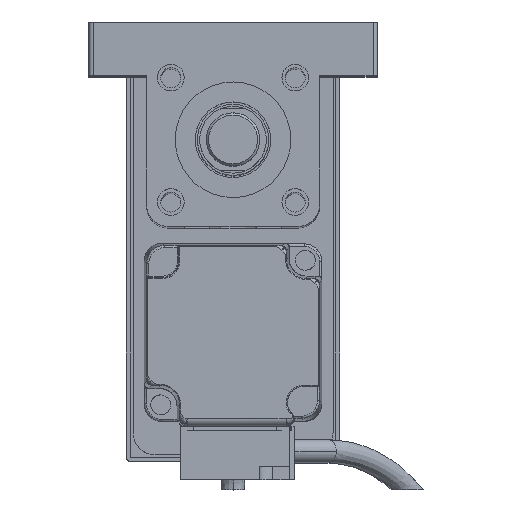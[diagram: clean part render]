
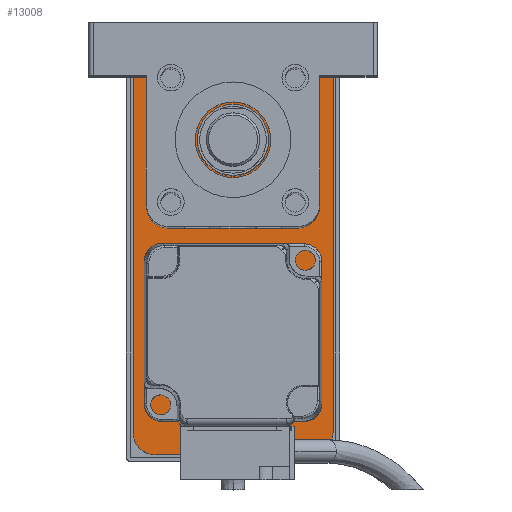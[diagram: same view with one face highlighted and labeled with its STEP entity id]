
A CAD part, top view. The second image highlights one B-rep face of the part: STEP entity #13008.
In plain terms, the highlighted planar face has unit normal (0, 0, 1).
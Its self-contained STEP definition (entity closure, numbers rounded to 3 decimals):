
#95 = DIRECTION ( 'NONE',  ( 0., 0., 1. ) ) ;
#449 = EDGE_CURVE ( 'NONE', #1602, #7636, #5620, .T. ) ;
#1353 = EDGE_CURVE ( 'NONE', #10924, #7166, #13956, .T. ) ;
#1576 = DIRECTION ( 'NONE',  ( 1., 0., 0. ) ) ;
#1602 = VERTEX_POINT ( 'NONE', #21933 ) ;
#2132 = CARTESIAN_POINT ( 'NONE',  ( 17.5, -45., 10. ) ) ;
#2158 = DIRECTION ( 'NONE',  ( 1., 0., 0. ) ) ;
#3330 = EDGE_CURVE ( 'NONE', #7636, #10924, #13272, .T. ) ;
#4036 = DIRECTION ( 'NONE',  ( 0., 1., 0. ) ) ;
#4304 = DIRECTION ( 'NONE',  ( 1., 0., 0. ) ) ;
#4361 = EDGE_CURVE ( 'NONE', #7166, #17107, #20621, .T. ) ;
#4362 = ORIENTED_EDGE ( 'NONE', *, *, #4361, .T. ) ;
#4627 = ORIENTED_EDGE ( 'NONE', *, *, #20187, .T. ) ;
#5100 = DIRECTION ( 'NONE',  ( 1., 0., 0. ) ) ;
#5357 = CARTESIAN_POINT ( 'NONE',  ( 17.5, -40., 10. ) ) ;
#5437 = EDGE_CURVE ( 'NONE', #24759, #1602, #6675, .T. ) ;
#5620 = LINE ( 'NONE', #9775, #10264 ) ;
#5799 = VECTOR ( 'NONE', #4304, 1000. ) ;
#6083 = CARTESIAN_POINT ( 'NONE',  ( 17.5, 45., 10. ) ) ;
#6398 = AXIS2_PLACEMENT_3D ( 'NONE', #25638, #95, #2158 ) ;
#6675 = CIRCLE ( 'NONE', #19016, 5. ) ;
#6710 = AXIS2_PLACEMENT_3D ( 'NONE', #23260, #13358, #11450 ) ;
#7166 = VERTEX_POINT ( 'NONE', #8958 ) ;
#7636 = VERTEX_POINT ( 'NONE', #9272 ) ;
#7705 = PLANE ( 'NONE',  #6710 ) ;
#8102 = EDGE_LOOP ( 'NONE', ( #14425, #14707, #8948, #4362, #13267, #25118, #4627, #22100 ) ) ;
#8489 = CARTESIAN_POINT ( 'NONE',  ( 22.5, -45., 10. ) ) ;
#8948 = ORIENTED_EDGE ( 'NONE', *, *, #1353, .T. ) ;
#8958 = CARTESIAN_POINT ( 'NONE',  ( -17.5, 45., 10. ) ) ;
#9272 = CARTESIAN_POINT ( 'NONE',  ( 22.5, 40., 10. ) ) ;
#9415 = CARTESIAN_POINT ( 'NONE',  ( -17.5, 40., 10. ) ) ;
#9726 = VERTEX_POINT ( 'NONE', #23965 ) ;
#9775 = CARTESIAN_POINT ( 'NONE',  ( 22.5, -45., 10. ) ) ;
#10264 = VECTOR ( 'NONE', #4036, 1000. ) ;
#10527 = EDGE_CURVE ( 'NONE', #11273, #9726, #14503, .T. ) ;
#10924 = VERTEX_POINT ( 'NONE', #6083 ) ;
#11273 = VERTEX_POINT ( 'NONE', #21006 ) ;
#11450 = DIRECTION ( 'NONE',  ( 1., 0., 0. ) ) ;
#11797 = VECTOR ( 'NONE', #20422, 1000. ) ;
#11939 = DIRECTION ( 'NONE',  ( 1., 0., 0. ) ) ;
#12282 = DIRECTION ( 'NONE',  ( 0., 0., 1. ) ) ;
#13008 = ADVANCED_FACE ( 'NONE', ( #21498 ), #7705, .T. ) ;
#13267 = ORIENTED_EDGE ( 'NONE', *, *, #21011, .T. ) ;
#13272 = CIRCLE ( 'NONE', #6398, 5. ) ;
#13358 = DIRECTION ( 'NONE',  ( 0., 0., 1. ) ) ;
#13956 = LINE ( 'NONE', #18621, #11797 ) ;
#14173 = CARTESIAN_POINT ( 'NONE',  ( -17.5, -40., 10. ) ) ;
#14425 = ORIENTED_EDGE ( 'NONE', *, *, #449, .T. ) ;
#14503 = CIRCLE ( 'NONE', #19092, 5. ) ;
#14707 = ORIENTED_EDGE ( 'NONE', *, *, #3330, .T. ) ;
#15206 = DIRECTION ( 'NONE',  ( 0., 0., 1. ) ) ;
#15375 = DIRECTION ( 'NONE',  ( 0., 0., 1. ) ) ;
#17107 = VERTEX_POINT ( 'NONE', #17653 ) ;
#17653 = CARTESIAN_POINT ( 'NONE',  ( -22.5, 40., 10. ) ) ;
#18621 = CARTESIAN_POINT ( 'NONE',  ( 22.5, 45., 10. ) ) ;
#19016 = AXIS2_PLACEMENT_3D ( 'NONE', #5357, #15206, #5100 ) ;
#19092 = AXIS2_PLACEMENT_3D ( 'NONE', #14173, #12282, #11939 ) ;
#20187 = EDGE_CURVE ( 'NONE', #9726, #24759, #23744, .T. ) ;
#20422 = DIRECTION ( 'NONE',  ( -1., 0., 0. ) ) ;
#20621 = CIRCLE ( 'NONE', #21811, 5. ) ;
#21006 = CARTESIAN_POINT ( 'NONE',  ( -22.5, -40., 10. ) ) ;
#21011 = EDGE_CURVE ( 'NONE', #17107, #11273, #21223, .T. ) ;
#21223 = LINE ( 'NONE', #25260, #24018 ) ;
#21244 = DIRECTION ( 'NONE',  ( 0., -1., 0. ) ) ;
#21498 = FACE_OUTER_BOUND ( 'NONE', #8102, .T. ) ;
#21811 = AXIS2_PLACEMENT_3D ( 'NONE', #9415, #15375, #1576 ) ;
#21933 = CARTESIAN_POINT ( 'NONE',  ( 22.5, -40., 10. ) ) ;
#22100 = ORIENTED_EDGE ( 'NONE', *, *, #5437, .T. ) ;
#23260 = CARTESIAN_POINT ( 'NONE',  ( 0., 0., 10. ) ) ;
#23744 = LINE ( 'NONE', #8489, #5799 ) ;
#23965 = CARTESIAN_POINT ( 'NONE',  ( -17.5, -45., 10. ) ) ;
#24018 = VECTOR ( 'NONE', #21244, 1000. ) ;
#24759 = VERTEX_POINT ( 'NONE', #2132 ) ;
#25118 = ORIENTED_EDGE ( 'NONE', *, *, #10527, .T. ) ;
#25260 = CARTESIAN_POINT ( 'NONE',  ( -22.5, -45., 10. ) ) ;
#25638 = CARTESIAN_POINT ( 'NONE',  ( 17.5, 40., 10. ) ) ;
